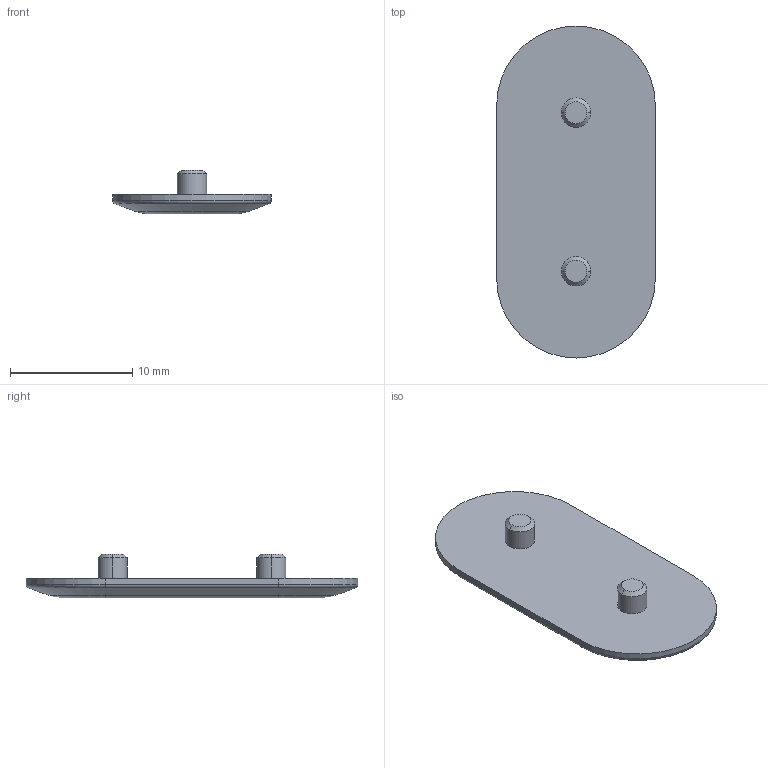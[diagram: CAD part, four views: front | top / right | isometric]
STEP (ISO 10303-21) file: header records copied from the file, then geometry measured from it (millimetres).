
FILE_DESCRIPTION (( 'STEP AP214' ), '1' );
FILE_NAME ('Abdeckkappe für Excenter.STEP', '2010-06-29T11:51:54', ( 'grass' ), ( '' ), 'SwSTEP 2.0', 'SolidWorks 2009', '' );
FILE_SCHEMA (( 'AUTOMOTIVE_DESIGN' ));
Length unit declared in the file: millimetre
Products named in the file (1): Abdeckkappe f黵 Excenter
Bounding box: 13 x 27.2 x 3.6 mm (x, y, z)
Volume: 421.4 mm3; surface area: 1073.7 mm2
Topology: 1 solids, 2 shells, 106 faces, 284 edges, 184 vertices
Faces by surface type: plane 58, cylinder 36, cone 6, torus 6
Entity records: 3346 total; most frequent: DIRECTION 584, CARTESIAN_POINT 575, ORIENTED_EDGE 568, EDGE_CURVE 284, VECTOR 198, LINE 198, AXIS2_PLACEMENT_3D 193, VERTEX_POINT 184
